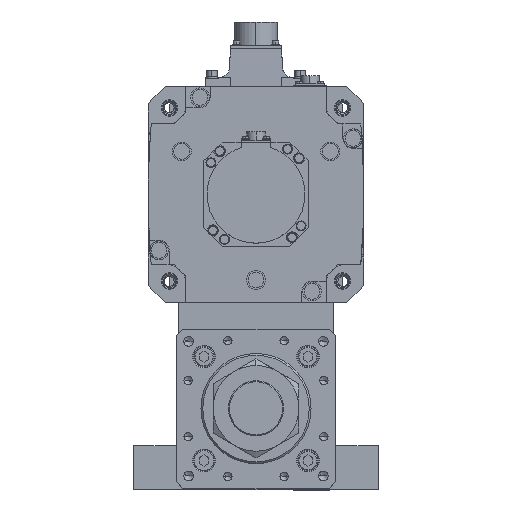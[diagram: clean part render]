
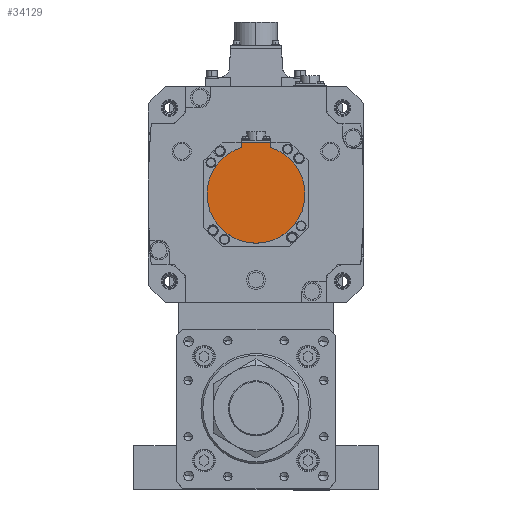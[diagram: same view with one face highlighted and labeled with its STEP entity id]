
A CAD part, top view. The second image highlights one B-rep face of the part: STEP entity #34129.
In plain terms, the highlighted planar face has unit normal (0, 0, 1) as drawn and (0, 0, -1) by its records, which use the part's own axes.
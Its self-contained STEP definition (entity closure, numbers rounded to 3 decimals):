
#473 = PLANE ( 'NONE',  #42480 ) ;
#520 = EDGE_CURVE ( 'NONE', #34243, #10336, #14188, .T. ) ;
#743 = DIRECTION ( 'NONE',  ( 1., 0., 0. ) ) ;
#1206 = CARTESIAN_POINT ( 'NONE',  ( 12., -38.158, -188. ) ) ;
#3087 = LINE ( 'NONE', #6021, #46241 ) ;
#3843 = ORIENTED_EDGE ( 'NONE', *, *, #51232, .F. ) ;
#4337 = CARTESIAN_POINT ( 'NONE',  ( 0., 0., -188. ) ) ;
#5950 = CARTESIAN_POINT ( 'NONE',  ( -40., 0., -188. ) ) ;
#6021 = CARTESIAN_POINT ( 'NONE',  ( 0., -42.5, -188. ) ) ;
#8571 = DIRECTION ( 'NONE',  ( 1., 0., 0. ) ) ;
#9567 = AXIS2_PLACEMENT_3D ( 'NONE', #4337, #26585, #743 ) ;
#10336 = VERTEX_POINT ( 'NONE', #5950 ) ;
#10388 = EDGE_LOOP ( 'NONE', ( #16850, #20720, #14234, #3843, #26262, #22537 ) ) ;
#10807 = VECTOR ( 'NONE', #41584, 1000. ) ;
#11673 = CARTESIAN_POINT ( 'NONE',  ( -12., -42.5, -188. ) ) ;
#14188 = CIRCLE ( 'NONE', #38707, 40. ) ;
#14234 = ORIENTED_EDGE ( 'NONE', *, *, #520, .F. ) ;
#14389 = VECTOR ( 'NONE', #27884, 1000. ) ;
#15536 = LINE ( 'NONE', #32922, #10807 ) ;
#16850 = ORIENTED_EDGE ( 'NONE', *, *, #54217, .T. ) ;
#17802 = FACE_OUTER_BOUND ( 'NONE', #10388, .T. ) ;
#18088 = CIRCLE ( 'NONE', #9567, 40. ) ;
#18168 = CARTESIAN_POINT ( 'NONE',  ( 12., -42.5, -188. ) ) ;
#18378 = AXIS2_PLACEMENT_3D ( 'NONE', #23756, #23187, #32038 ) ;
#20720 = ORIENTED_EDGE ( 'NONE', *, *, #41596, .F. ) ;
#21380 = CARTESIAN_POINT ( 'NONE',  ( 0., 0., -188. ) ) ;
#21409 = CARTESIAN_POINT ( 'NONE',  ( 0., -1.249, -188. ) ) ;
#22537 = ORIENTED_EDGE ( 'NONE', *, *, #42719, .T. ) ;
#23187 = DIRECTION ( 'NONE',  ( 0., 0., 1. ) ) ;
#23756 = CARTESIAN_POINT ( 'NONE',  ( 0., 0., -188. ) ) ;
#23861 = VERTEX_POINT ( 'NONE', #34611 ) ;
#26262 = ORIENTED_EDGE ( 'NONE', *, *, #51825, .F. ) ;
#26585 = DIRECTION ( 'NONE',  ( 0., 0., 1. ) ) ;
#27884 = DIRECTION ( 'NONE',  ( 0., 1., 0. ) ) ;
#28734 = VERTEX_POINT ( 'NONE', #1206 ) ;
#32038 = DIRECTION ( 'NONE',  ( 1., 0., 0. ) ) ;
#32392 = CARTESIAN_POINT ( 'NONE',  ( -12., -40.329, -188. ) ) ;
#32922 = CARTESIAN_POINT ( 'NONE',  ( 12., -1.249, -188. ) ) ;
#34129 = ADVANCED_FACE ( 'NONE', ( #17802 ), #473, .F. ) ;
#34226 = DIRECTION ( 'NONE',  ( 0., 0., 1. ) ) ;
#34243 = VERTEX_POINT ( 'NONE', #44200 ) ;
#34395 = DIRECTION ( 'NONE',  ( 0., 0., 1. ) ) ;
#34611 = CARTESIAN_POINT ( 'NONE',  ( -12., -38.158, -188. ) ) ;
#35227 = VERTEX_POINT ( 'NONE', #18168 ) ;
#38707 = AXIS2_PLACEMENT_3D ( 'NONE', #21380, #34395, #8571 ) ;
#40005 = VERTEX_POINT ( 'NONE', #11673 ) ;
#41584 = DIRECTION ( 'NONE',  ( 0., 1., 0. ) ) ;
#41596 = EDGE_CURVE ( 'NONE', #10336, #23861, #18088, .T. ) ;
#42480 = AXIS2_PLACEMENT_3D ( 'NONE', #21409, #34226, #43449 ) ;
#42719 = EDGE_CURVE ( 'NONE', #35227, #40005, #3087, .T. ) ;
#43449 = DIRECTION ( 'NONE',  ( 1., 0., 0. ) ) ;
#44200 = CARTESIAN_POINT ( 'NONE',  ( 40., 0., -188. ) ) ;
#46241 = VECTOR ( 'NONE', #53296, 1000. ) ;
#51232 = EDGE_CURVE ( 'NONE', #28734, #34243, #53997, .T. ) ;
#51825 = EDGE_CURVE ( 'NONE', #35227, #28734, #15536, .T. ) ;
#53296 = DIRECTION ( 'NONE',  ( -1., 0., 0. ) ) ;
#53997 = CIRCLE ( 'NONE', #18378, 40. ) ;
#54141 = LINE ( 'NONE', #32392, #14389 ) ;
#54217 = EDGE_CURVE ( 'NONE', #40005, #23861, #54141, .T. ) ;
